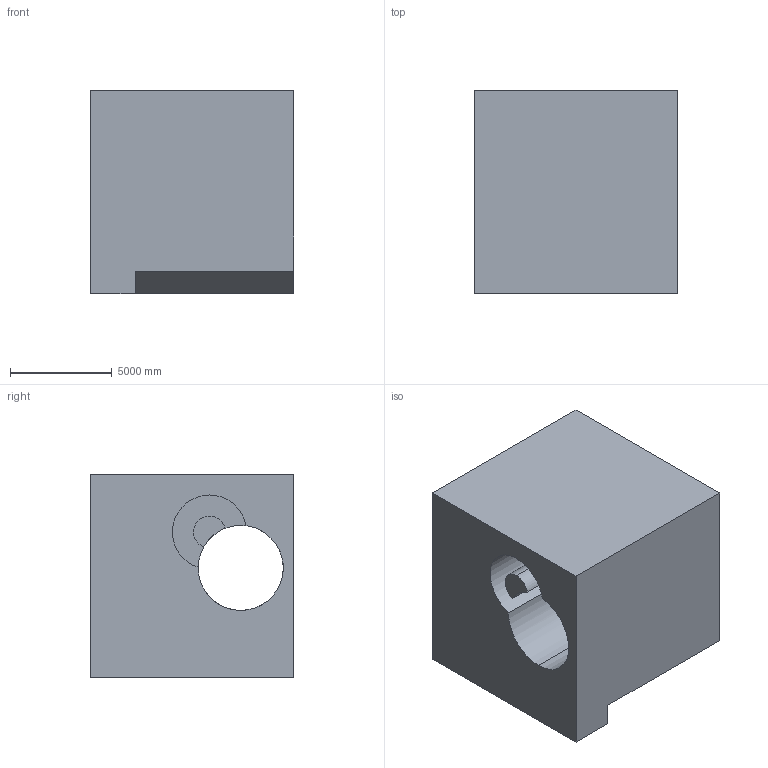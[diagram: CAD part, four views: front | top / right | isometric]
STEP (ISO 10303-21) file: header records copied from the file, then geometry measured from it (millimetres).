
FILE_DESCRIPTION (( 'STEP AP203' ), '1' );
FILE_NAME ('26.STEP', '2022-08-30T14:04:27', ( 'user' ), ( '' ), 'SwSTEP 2.0', 'SolidWorks 2021', '' );
FILE_SCHEMA (( 'CONFIG_CONTROL_DESIGN' ));
Length unit declared in the file: centimetre
Products named in the file (1): 26
Bounding box: 10000 x 10000 x 10000 mm (x, y, z)
Volume: 819629582385.6 mm3; surface area: 753375949.1 mm2
Topology: 1 solids, 1 shells, 16 faces, 42 edges, 28 vertices
Faces by surface type: plane 10, cylinder 6
Entity records: 583 total; most frequent: DIRECTION 92, CARTESIAN_POINT 87, ORIENTED_EDGE 84, EDGE_CURVE 42, AXIS2_PLACEMENT_3D 33, VERTEX_POINT 28, LINE 26, VECTOR 26
